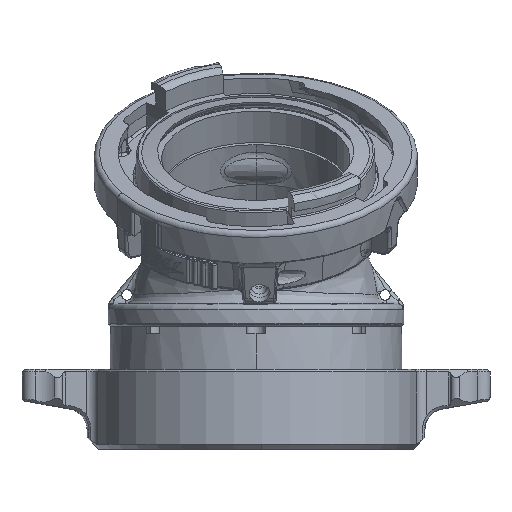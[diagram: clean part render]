
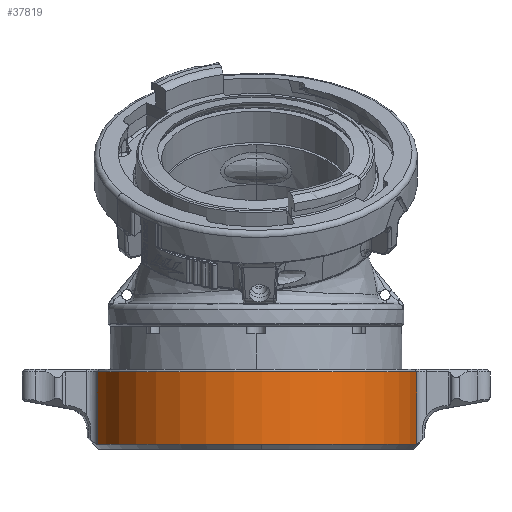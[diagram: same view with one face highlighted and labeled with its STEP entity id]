
A CAD part, front view. The second image highlights one B-rep face of the part: STEP entity #37819.
In plain terms, the highlighted cylindrical face has radius 98.425 mm (diameter 196.85 mm), a partial arc.
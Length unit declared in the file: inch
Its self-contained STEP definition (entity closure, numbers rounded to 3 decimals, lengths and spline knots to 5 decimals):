
#1833 = CARTESIAN_POINT ( 'NONE',  ( 0., 0., -1.1865 ) ) ;
#1835 = DIRECTION ( 'NONE',  ( 0., 0., -1. ) ) ;
#1837 = DIRECTION ( 'NONE',  ( -0.036, 0.999, 0. ) ) ;
#2817 = DIRECTION ( 'NONE',  ( 0., 0., 1. ) ) ;
#2825 = DIRECTION ( 'NONE',  ( 0., 0., 1. ) ) ;
#2829 = CARTESIAN_POINT ( 'NONE',  ( 3.83667, -0.54368, -1.3615 ) ) ;
#2833 = CARTESIAN_POINT ( 'NONE',  ( -3.78777, -0.81757, -1.3615 ) ) ;
#2836 = CARTESIAN_POINT ( 'NONE',  ( 0., 0., 0.539 ) ) ;
#2837 = DIRECTION ( 'NONE',  ( 0., 0., -1. ) ) ;
#2838 = DIRECTION ( 'NONE',  ( -0.999, -0.036, 0. ) ) ;
#2841 = CARTESIAN_POINT ( 'NONE',  ( 0., 0., -1.1865 ) ) ;
#2842 = DIRECTION ( 'NONE',  ( 0., 0., -1. ) ) ;
#2843 = DIRECTION ( 'NONE',  ( -0.036, 0.999, 0. ) ) ;
#8404 = CARTESIAN_POINT ( 'NONE',  ( 0.13911, -3.8725, -1.1865 ) ) ;
#8405 = CARTESIAN_POINT ( 'NONE',  ( -3.78777, -0.81757, -1.1865 ) ) ;
#8506 = CARTESIAN_POINT ( 'NONE',  ( -3.78777, -0.81757, 0.539 ) ) ;
#8510 = CARTESIAN_POINT ( 'NONE',  ( 3.83667, -0.54368, 0.539 ) ) ;
#8513 = CARTESIAN_POINT ( 'NONE',  ( 3.83667, -0.54368, -1.1865 ) ) ;
#10782 = FACE_OUTER_BOUND ( 'NONE', #47701, .T. ) ;
#10789 = CYLINDRICAL_SURFACE ( 'NONE', #13411, 3.875 ) ;
#13411 = AXIS2_PLACEMENT_3D ( 'NONE', #22954, #22952, #22947 ) ;
#17602 = AXIS2_PLACEMENT_3D ( 'NONE', #2836, #2837, #2838 ) ;
#17603 = AXIS2_PLACEMENT_3D ( 'NONE', #2841, #2842, #2843 ) ;
#22947 = DIRECTION ( 'NONE',  ( 0.999, 0.036, 0. ) ) ;
#22952 = DIRECTION ( 'NONE',  ( 0., 0., 1. ) ) ;
#22954 = CARTESIAN_POINT ( 'NONE',  ( 0., 0., -1.3615 ) ) ;
#28036 = EDGE_CURVE ( 'NONE', #28533, #28534, #62225, .T. ) ;
#28184 = EDGE_CURVE ( 'NONE', #28642, #28639, #62363, .T. ) ;
#28185 = EDGE_CURVE ( 'NONE', #28639, #28635, #62366, .T. ) ;
#28186 = EDGE_CURVE ( 'NONE', #28534, #28635, #62369, .T. ) ;
#28187 = EDGE_CURVE ( 'NONE', #28642, #28533, #62370, .T. ) ;
#28533 = VERTEX_POINT ( 'NONE', #8404 ) ;
#28534 = VERTEX_POINT ( 'NONE', #8405 ) ;
#28635 = VERTEX_POINT ( 'NONE', #8506 ) ;
#28639 = VERTEX_POINT ( 'NONE', #8510 ) ;
#28642 = VERTEX_POINT ( 'NONE', #8513 ) ;
#37819 = ADVANCED_FACE ( 'NONE', ( #10782 ), #10789, .T. ) ;
#38901 = AXIS2_PLACEMENT_3D ( 'NONE', #1833, #1835, #1837 ) ;
#47701 = EDGE_LOOP ( 'NONE', ( #66006, #66008, #66009, #66011, #66013 ) ) ;
#62225 = CIRCLE ( 'NONE', #38901, 3.875 ) ;
#62363 = LINE ( 'NONE', #2829, #62368 ) ;
#62366 = CIRCLE ( 'NONE', #17602, 3.875 ) ;
#62368 = VECTOR ( 'NONE', #2825, 39.37008 ) ;
#62369 = LINE ( 'NONE', #2833, #62371 ) ;
#62370 = CIRCLE ( 'NONE', #17603, 3.875 ) ;
#62371 = VECTOR ( 'NONE', #2817, 39.37008 ) ;
#66006 = ORIENTED_EDGE ( 'NONE', *, *, #28184, .T. ) ;
#66008 = ORIENTED_EDGE ( 'NONE', *, *, #28185, .T. ) ;
#66009 = ORIENTED_EDGE ( 'NONE', *, *, #28186, .F. ) ;
#66011 = ORIENTED_EDGE ( 'NONE', *, *, #28036, .F. ) ;
#66013 = ORIENTED_EDGE ( 'NONE', *, *, #28187, .F. ) ;
